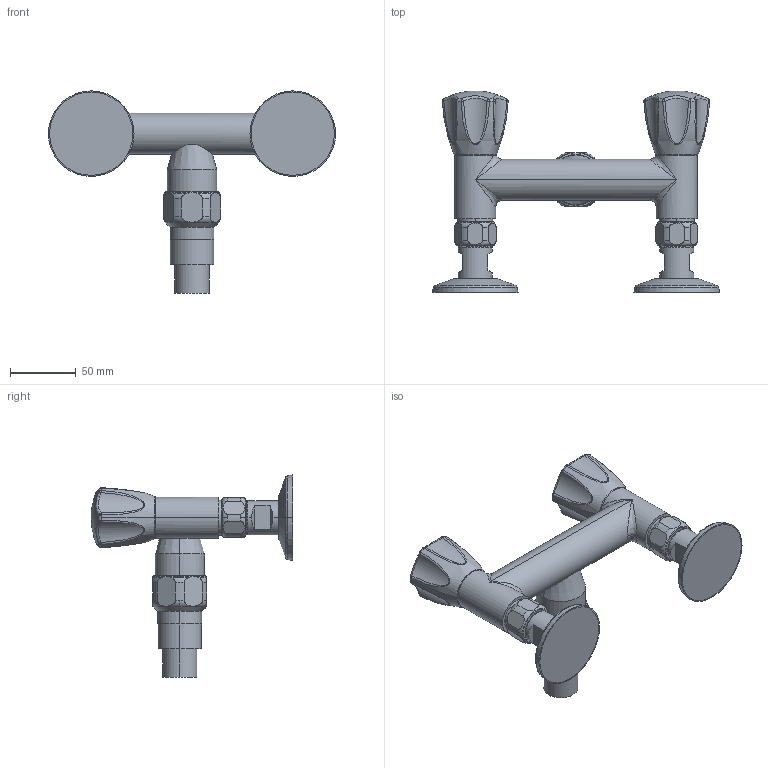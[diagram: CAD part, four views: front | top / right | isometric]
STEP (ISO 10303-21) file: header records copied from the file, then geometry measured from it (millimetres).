
FILE_DESCRIPTION((''),'2;1');
FILE_NAME('K_24_42_17_000C74','2012-01-04T',('HEF'),(''),'PRO/ENGINEER BY PARAMETRIC TECHNOLOGY CORPORATION, 2011080','PRO/ENGINEER BY PARAMETRIC TECHNOLOGY CORPORATION, 2011080','');
FILE_SCHEMA(('AUTOMOTIVE_DESIGN_CC2 { 1 2 10303 214 -1 1 5 2 }'));
Length unit declared in the file: millimetre
Products named in the file (1): K_24_42_17_000C74
Bounding box: 218 x 152.93 x 153.6 mm (x, y, z)
Volume: 498904 mm3; surface area: 76433.5 mm2
Topology: 3 solids, 3 shells, 353 faces, 825 edges, 500 vertices
Faces by surface type: plane 119, cylinder 72, torus 62, bspline 36, cone 32, sphere 28, extrusion 4
Entity records: 20125 total; most frequent: CARTESIAN_POINT 9562, DIRECTION 1677, ORIENTED_EDGE 1650, EDGE_CURVE 825, AXIS2_PLACEMENT_3D 685, VERTEX_POINT 500, FILL_AREA_STYLE_COLOUR 377, FILL_AREA_STYLE 377
